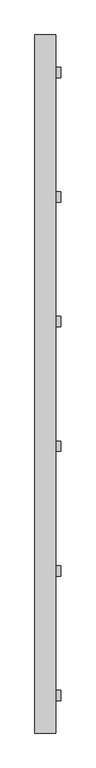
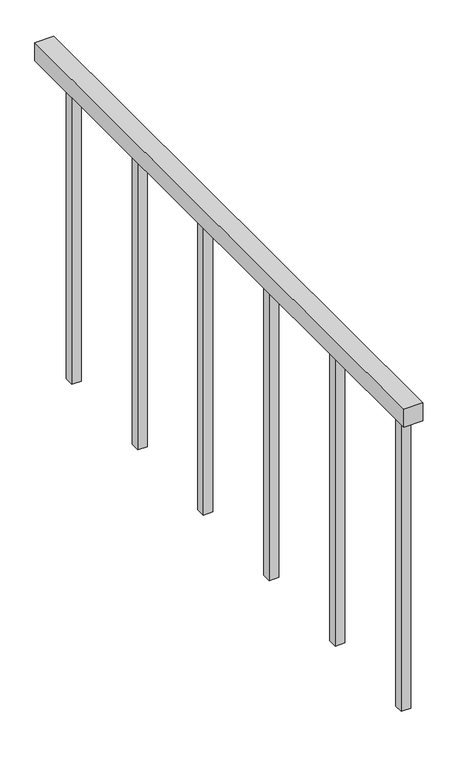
"""IFC4 building model written with IfcOpenShell, lengths in millimetres: railing geometry, ADSK_Стандартное_h 900 Поручень квадратный без направляющих."""

from ifc_helpers import new_model, si_unit, frame, origin, place, context, project, spatial, polyline, outline, extrude, source, transform, mapped, element, save


def railing_029c4840(model_context):
    return source(origin(), model_context, "Body", "SweptSolid", [
        extrude(outline(polyline([(-7291.6291278, 10004.6370105), (-7241.6291278, 10004.6370105), (-7241.6291278, 8324.6370105), (-7291.6291278, 8324.6370105), (-7291.6291278, 10004.6370105)])), frame((0.0, 0.0, 4350.0), z_axis=(0.0, 0.0, 1.0), x_axis=(1.0, 0.0, 0.0)), (0.0, 0.0, 1.0), 50.0),
        extrude(outline(polyline([(-7254.1291278, 8427.1370105), (-7229.1291278, 8427.1370105), (-7229.1291278, 8402.1370105), (-7254.1291278, 8402.1370105), (-7254.1291278, 8427.1370105)])), frame((0.0, 0.0, 3500.0), z_axis=(0.0, 0.0, 1.0), x_axis=(1.0, 0.0, 0.0)), (0.0, 0.0, 1.0), 850.0),
        extrude(outline(polyline([(-7254.1291278, 8727.1370105), (-7229.1291278, 8727.1370105), (-7229.1291278, 8702.1370105), (-7254.1291278, 8702.1370105), (-7254.1291278, 8727.1370105)])), frame((0.0, 0.0, 3500.0), z_axis=(0.0, 0.0, 1.0), x_axis=(1.0, 0.0, 0.0)), (0.0, 0.0, 1.0), 850.0),
        extrude(outline(polyline([(-7254.1291278, 9027.1370105), (-7229.1291278, 9027.1370105), (-7229.1291278, 9002.1370105), (-7254.1291278, 9002.1370105), (-7254.1291278, 9027.1370105)])), frame((0.0, 0.0, 3500.0), z_axis=(0.0, 0.0, 1.0), x_axis=(1.0, 0.0, 0.0)), (0.0, 0.0, 1.0), 850.0),
        extrude(outline(polyline([(-7254.1291278, 9327.1370105), (-7229.1291278, 9327.1370105), (-7229.1291278, 9302.1370105), (-7254.1291278, 9302.1370105), (-7254.1291278, 9327.1370105)])), frame((0.0, 0.0, 3500.0), z_axis=(0.0, 0.0, 1.0), x_axis=(1.0, 0.0, 0.0)), (0.0, 0.0, 1.0), 850.0),
        extrude(outline(polyline([(-7254.1291278, 9627.1370105), (-7229.1291278, 9627.1370105), (-7229.1291278, 9602.1370105), (-7254.1291278, 9602.1370105), (-7254.1291278, 9627.1370105)])), frame((0.0, 0.0, 3500.0), z_axis=(0.0, 0.0, 1.0), x_axis=(1.0, 0.0, 0.0)), (0.0, 0.0, 1.0), 850.0),
        extrude(outline(polyline([(-7254.1291278, 9927.1370105), (-7229.1291278, 9927.1370105), (-7229.1291278, 9902.1370105), (-7254.1291278, 9902.1370105), (-7254.1291278, 9927.1370105)])), frame((0.0, 0.0, 3500.0), z_axis=(0.0, 0.0, 1.0), x_axis=(1.0, 0.0, 0.0)), (0.0, 0.0, 1.0), 850.0),
    ])


if __name__ == "__main__":
    model = new_model("IFC4")
    model_context = context("Model", 3, world=origin())
    ifc_project = project(units=[si_unit("LENGTHUNIT", "METRE", prefix="MILLI")], contexts=[model_context])
    site = spatial("IfcSite", under=ifc_project)
    building = spatial("IfcBuilding", under=site)
    placement = place(None, origin())
    railing_shape = railing_029c4840(model_context)
    element("IfcRailing", 1, ObjectType="ADSK_Стандартное_h 900 Поручень квадратный без направляющих", at=placement, inside=building, context=model_context, shape_type="MappedRepresentation", body=[
        mapped(railing_shape, transform((0.0, 0.0, 0.0), x_axis=(1.0, 0.0, 0.0), y_axis=(0.0, 1.0, 0.0), z_axis=(0.0, 0.0, 1.0))),
    ])
    save(model, "model.ifc")
